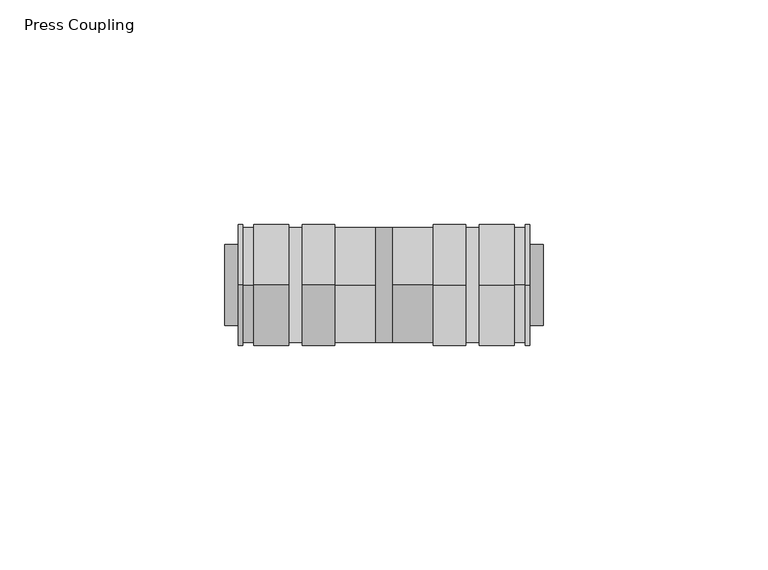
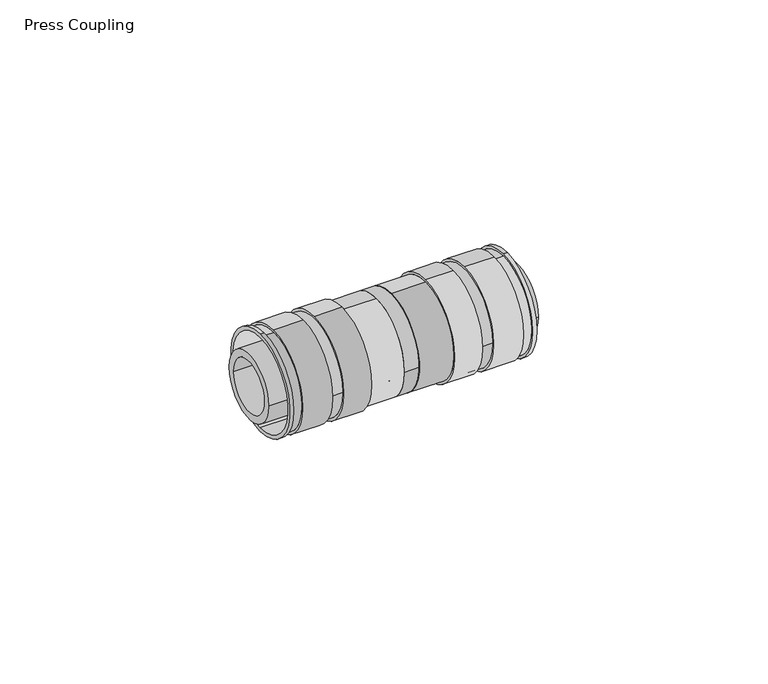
"""IFC4 building model written with IfcOpenShell, lengths in millimetres: pipe fitting geometry, Press Coupling : Superpipe Press Coupling."""

from ifc_helpers import new_model, si_unit, point, frame, frame_2d, origin, place, context, project, spatial, polyline, circle_curve, trimmed, segment, composite_curve, outline, extrude, source, transform, mapped, element, save
from ifc_brep_helpers import plane_surface, cylinder_surface, revolved_surface, advanced_brep


def press_coupling_33d5531b(model_context):
    return source(origin(), model_context, "Body", "SolidModel", [
        advanced_brep(
        [(68.0, 0.0, -13.5), (68.0, 0.0, 13.5), (68.0, 0.0, -12.5), (68.0, 0.0, 12.5), (37.5, 0.0, -12.8), (37.5, 0.0, 12.8), (37.5, 0.0, -12.5), (37.5, 0.0, 12.5), (67.0, 0.0, -13.5), (67.0, 0.0, 13.5), (64.5, 0.0, 13.5), (64.5, 0.0, -13.5), (56.75, 0.0, -13.5), (56.75, 13.5, 0.0), (56.75, 0.0, 13.5), (53.75, 13.5, 0.0), (53.75, 0.0, -13.5), (46.5, 0.0, -13.5), (46.5, 0.0, 13.5), (53.75, 0.0, 13.5), (56.75, -13.5, 0.0), (53.75, -13.5, 0.0), (64.5, 0.0, 12.8), (64.5, 0.0, -12.8), (67.0, 0.0, 12.8), (67.0, 0.0, -12.8), (56.75, 12.8, 0.0), (56.75, -12.8, 0.0), (53.75, 12.8, 0.0), (53.75, -12.8, 0.0), (46.5, 0.0, -12.8), (46.5, 0.0, 12.8)],
        [
            (0, 1, circle_curve(frame((68.0, 0.0, 0.0), z_axis=(1.0, 0.0, 0.0), x_axis=(0.0, 0.0, 1.0)), 13.5)),
            (1, 0, circle_curve(frame((68.0, 0.0, 0.0), z_axis=(1.0, 0.0, 0.0), x_axis=(0.0, 0.0, 1.0)), 13.5)),
            (2, 3, circle_curve(frame((68.0, 0.0, 0.0), z_axis=(-1.0, 0.0, 0.0), x_axis=(0.0, 0.0, 1.0)), 12.5)),
            (3, 2, circle_curve(frame((68.0, 0.0, 0.0), z_axis=(-1.0, 0.0, 0.0), x_axis=(0.0, 0.0, 1.0)), 12.5)),
            (4, 5, circle_curve(frame((37.5, 0.0, 0.0), z_axis=(-1.0, 0.0, 0.0), x_axis=(0.0, 0.0, 1.0)), 12.8)),
            (5, 4, circle_curve(frame((37.5, 0.0, 0.0), z_axis=(-1.0, 0.0, 0.0), x_axis=(0.0, 0.0, 1.0)), 12.8)),
            (6, 7, circle_curve(frame((37.5, 0.0, 0.0), z_axis=(1.0, 0.0, 0.0), x_axis=(0.0, 0.0, 1.0)), 12.5)),
            (7, 6, circle_curve(frame((37.5, 0.0, 0.0), z_axis=(1.0, 0.0, 0.0), x_axis=(0.0, 0.0, 1.0)), 12.5)),
            (0, 8),
            (8, 9, circle_curve(frame((67.0, 0.0, 0.0), z_axis=(1.0, 0.0, 0.0), x_axis=(0.0, 0.0, 1.0)), 13.5)),
            (9, 1),
            (10, 11, circle_curve(frame((64.5, 0.0, 0.0), z_axis=(-1.0, 0.0, 0.0), x_axis=(0.0, 0.0, 1.0)), 13.5)),
            (11, 12),
            (12, 13, circle_curve(frame((56.75, 0.0, 0.0), z_axis=(1.0, 0.0, 0.0), x_axis=(0.0, 0.0, 1.0)), 13.5)),
            (13, 14, circle_curve(frame((56.75, 0.0, 0.0), z_axis=(1.0, 0.0, 0.0), x_axis=(0.0, 0.0, 1.0)), 13.5)),
            (14, 10),
            (15, 16, circle_curve(frame((53.75, 0.0, 0.0), z_axis=(-1.0, 0.0, 0.0), x_axis=(0.0, 0.0, 1.0)), 13.5)),
            (16, 17),
            (17, 18, circle_curve(frame((46.5, 0.0, 0.0), z_axis=(1.0, 0.0, 0.0), x_axis=(0.0, 0.0, 1.0)), 13.5)),
            (18, 19),
            (19, 15, circle_curve(frame((53.75, 0.0, 0.0), z_axis=(-1.0, 0.0, 0.0), x_axis=(0.0, 0.0, 1.0)), 13.5)),
            (9, 8, circle_curve(frame((67.0, 0.0, 0.0), z_axis=(1.0, 0.0, 0.0), x_axis=(0.0, 0.0, 1.0)), 13.5)),
            (11, 10, circle_curve(frame((64.5, 0.0, 0.0), z_axis=(-1.0, 0.0, 0.0), x_axis=(0.0, 0.0, 1.0)), 13.5)),
            (14, 20, circle_curve(frame((56.75, 0.0, 0.0), z_axis=(1.0, 0.0, 0.0), x_axis=(0.0, 0.0, 1.0)), 13.5)),
            (20, 12, circle_curve(frame((56.75, 0.0, 0.0), z_axis=(1.0, 0.0, 0.0), x_axis=(0.0, 0.0, 1.0)), 13.5)),
            (16, 21, circle_curve(frame((53.75, 0.0, 0.0), z_axis=(-1.0, 0.0, 0.0), x_axis=(0.0, 0.0, 1.0)), 13.5)),
            (21, 19, circle_curve(frame((53.75, 0.0, 0.0), z_axis=(-1.0, 0.0, 0.0), x_axis=(0.0, 0.0, 1.0)), 13.5)),
            (18, 17, circle_curve(frame((46.5, 0.0, 0.0), z_axis=(1.0, 0.0, 0.0), x_axis=(0.0, 0.0, 1.0)), 13.5)),
            (2, 6),
            (7, 3),
            (22, 23, circle_curve(frame((64.5, 0.0, 0.0), z_axis=(-1.0, 0.0, 0.0), x_axis=(0.0, 0.0, -1.0)), 12.8)),
            (23, 22, circle_curve(frame((64.5, 0.0, 0.0), z_axis=(-1.0, 0.0, 0.0), x_axis=(0.0, 0.0, -1.0)), 12.8)),
            (24, 25, circle_curve(frame((67.0, 0.0, 0.0), z_axis=(1.0, 0.0, 0.0), x_axis=(0.0, 0.0, -1.0)), 12.8)),
            (25, 24, circle_curve(frame((67.0, 0.0, 0.0), z_axis=(1.0, 0.0, 0.0), x_axis=(0.0, 0.0, -1.0)), 12.8)),
            (23, 25),
            (24, 22),
            (26, 27, circle_curve(frame((56.75, 0.0, 0.0), z_axis=(1.0, 0.0, 0.0), x_axis=(0.0, -1.0, 0.0)), 12.8)),
            (27, 26, circle_curve(frame((56.75, 0.0, 0.0), z_axis=(1.0, 0.0, 0.0), x_axis=(0.0, -1.0, 0.0)), 12.8)),
            (28, 29, circle_curve(frame((53.75, 0.0, 0.0), z_axis=(-1.0, 0.0, 0.0), x_axis=(0.0, -1.0, 0.0)), 12.8)),
            (29, 28, circle_curve(frame((53.75, 0.0, 0.0), z_axis=(-1.0, 0.0, 0.0), x_axis=(0.0, -1.0, 0.0)), 12.8)),
            (26, 28),
            (29, 27),
            (30, 31, circle_curve(frame((46.5, 0.0, 0.0), z_axis=(1.0, 0.0, 0.0), x_axis=(0.0, 0.0, 1.0)), 12.8)),
            (31, 30, circle_curve(frame((46.5, 0.0, 0.0), z_axis=(1.0, 0.0, 0.0), x_axis=(0.0, 0.0, 1.0)), 12.8)),
            (31, 5),
            (4, 30),
        ],
        [
            plane_surface(frame((68.0, 0.0, 13.5), z_axis=(1.0, 0.0, 0.0), x_axis=(0.0, -1.0, 0.0))),
            plane_surface(frame((37.5, 0.0, 13.5), z_axis=(-1.0, 0.0, 0.0), x_axis=(0.0, 1.0, 0.0))),
            cylinder_surface(frame((37.5, 0.0, 0.0), z_axis=(1.0, 0.0, 0.0), x_axis=(0.0, 0.0, 1.0)), 13.5),
            revolved_surface(polyline([(37.5, 0.0, 12.5), (68.0, 0.0, 12.5)]), (37.5, 0.0, 0.0), (-1.0, 0.0, 0.0)),
            plane_surface(frame((64.5, 0.0, -13.5), z_axis=(1.0, 0.0, 0.0), x_axis=(0.0, -1.0, 0.0))),
            plane_surface(frame((67.0, 0.0, -13.5), z_axis=(-1.0, 0.0, 0.0), x_axis=(0.0, 1.0, 0.0))),
            cylinder_surface(frame((68.0, 0.0, 0.0), z_axis=(1.0, 0.0, 0.0), x_axis=(0.0, 0.0, -1.0)), 12.8),
            plane_surface(frame((56.75, -13.5, 0.0), z_axis=(-1.0, 0.0, 0.0), x_axis=(0.0, 0.0, -1.0))),
            plane_surface(frame((53.75, -13.5, 0.0), z_axis=(1.0, 0.0, 0.0), x_axis=(0.0, 0.0, 1.0))),
            cylinder_surface(frame((53.75, 0.0, 0.0), z_axis=(1.0, 0.0, 0.0), x_axis=(0.0, -1.0, 0.0)), 12.8),
            plane_surface(frame((46.5, 0.0, 13.5), z_axis=(-1.0, 0.0, 0.0), x_axis=(0.0, -1.0, 0.0))),
            cylinder_surface(frame((37.5, 0.0, 0.0), z_axis=(-1.0, 0.0, 0.0), x_axis=(0.0, 0.0, 1.0)), 12.8),
        ],
        [
            (0, [[1, 2], [3, 4]]),
            (1, [[5, 6], [7, 8]]),
            (2, [[-1, 9, 10, 11]]),
            (2, [[12, 13, 14, 15, 16]]),
            (2, [[17, 18, 19, 20, 21]]),
            (2, [[-2, -11, 22, -9]]),
            (2, [[23, -16, 24, 25, -13]]),
            (2, [[26, 27, -20, 28, -18]]),
            (3, [[-3, 29, -8, 30]]),
            (3, [[-4, -30, -7, -29]]),
            (4, [[-12, -23], [31, 32]]),
            (5, [[-10, -22], [33, 34]]),
            (6, [[-32, 35, -33, 36]]),
            (6, [[-31, -36, -34, -35]]),
            (7, [[-14, -25, -24, -15], [37, 38]]),
            (8, [[-17, -21, -27, -26], [39, 40]]),
            (9, [[-37, 41, -40, 42]]),
            (9, [[-38, -42, -39, -41]]),
            (10, [[-19, -28], [43, 44]]),
            (11, [[-44, 45, -5, 46]]),
            (11, [[-43, -46, -6, -45]]),
        ],
    ),
        advanced_brep(
        [(3.0, 0.0, -13.5), (3.0, 0.0, 13.5), (3.0, 0.0, -12.5), (3.0, 0.0, 12.5), (33.5, 0.0, -12.8), (33.5, 0.0, 12.8), (33.5, 0.0, -12.5), (33.5, 0.0, 12.5), (4.0, 0.0, -13.5), (4.0, 0.0, 13.5), (6.5, 0.0, 13.5), (6.5, 0.0, -13.5), (14.25, 0.0, -13.5), (14.25, -13.5, 0.0), (14.25, 0.0, 13.5), (24.5, 0.0, -13.5), (24.5, 0.0, 13.5), (17.25, 0.0, 13.5), (17.25, -13.5, 0.0), (17.25, 0.0, -13.5), (14.25, 13.5, 0.0), (17.25, 13.5, 0.0), (6.5, 0.0, 12.8), (6.5, 0.0, -12.8), (4.0, 0.0, 12.8), (4.0, 0.0, -12.8), (24.5, 0.0, -12.8), (24.5, 0.0, 12.8), (14.25, 12.8, 0.0), (14.25, -12.8, 0.0), (17.25, 12.8, 0.0), (17.25, -12.8, 0.0)],
        [
            (0, 1, circle_curve(frame((3.0, 0.0, 0.0), z_axis=(-1.0, 0.0, 0.0), x_axis=(0.0, 0.0, 1.0)), 13.5)),
            (1, 0, circle_curve(frame((3.0, 0.0, 0.0), z_axis=(-1.0, 0.0, 0.0), x_axis=(0.0, 0.0, 1.0)), 13.5)),
            (2, 3, circle_curve(frame((3.0, 0.0, 0.0), z_axis=(1.0, 0.0, 0.0), x_axis=(0.0, 0.0, 1.0)), 12.5)),
            (3, 2, circle_curve(frame((3.0, 0.0, 0.0), z_axis=(1.0, 0.0, 0.0), x_axis=(0.0, 0.0, 1.0)), 12.5)),
            (4, 5, circle_curve(frame((33.5, 0.0, 0.0), z_axis=(1.0, 0.0, 0.0), x_axis=(0.0, 0.0, 1.0)), 12.8)),
            (5, 4, circle_curve(frame((33.5, 0.0, 0.0), z_axis=(1.0, 0.0, 0.0), x_axis=(0.0, 0.0, 1.0)), 12.8)),
            (6, 7, circle_curve(frame((33.5, 0.0, 0.0), z_axis=(-1.0, 0.0, 0.0), x_axis=(0.0, 0.0, 1.0)), 12.5)),
            (7, 6, circle_curve(frame((33.5, 0.0, 0.0), z_axis=(-1.0, 0.0, 0.0), x_axis=(0.0, 0.0, 1.0)), 12.5)),
            (0, 8),
            (8, 9, circle_curve(frame((4.0, 0.0, 0.0), z_axis=(-1.0, 0.0, 0.0), x_axis=(0.0, 0.0, 1.0)), 13.5)),
            (9, 1),
            (10, 11, circle_curve(frame((6.5, 0.0, 0.0), z_axis=(1.0, 0.0, 0.0), x_axis=(0.0, 0.0, 1.0)), 13.5)),
            (11, 12),
            (12, 13, circle_curve(frame((14.25, 0.0, 0.0), z_axis=(-1.0, 0.0, 0.0), x_axis=(0.0, 0.0, 1.0)), 13.5)),
            (13, 14, circle_curve(frame((14.25, 0.0, 0.0), z_axis=(-1.0, 0.0, 0.0), x_axis=(0.0, 0.0, 1.0)), 13.5)),
            (14, 10),
            (15, 16, circle_curve(frame((24.5, 0.0, 0.0), z_axis=(-1.0, 0.0, 0.0), x_axis=(0.0, 0.0, 1.0)), 13.5)),
            (16, 17),
            (17, 18, circle_curve(frame((17.25, 0.0, 0.0), z_axis=(1.0, 0.0, 0.0), x_axis=(0.0, 0.0, 1.0)), 13.5)),
            (18, 19, circle_curve(frame((17.25, 0.0, 0.0), z_axis=(1.0, 0.0, 0.0), x_axis=(0.0, 0.0, 1.0)), 13.5)),
            (19, 15),
            (9, 8, circle_curve(frame((4.0, 0.0, 0.0), z_axis=(-1.0, 0.0, 0.0), x_axis=(0.0, 0.0, 1.0)), 13.5)),
            (11, 10, circle_curve(frame((6.5, 0.0, 0.0), z_axis=(1.0, 0.0, 0.0), x_axis=(0.0, 0.0, 1.0)), 13.5)),
            (14, 20, circle_curve(frame((14.25, 0.0, 0.0), z_axis=(-1.0, 0.0, 0.0), x_axis=(0.0, 0.0, 1.0)), 13.5)),
            (20, 12, circle_curve(frame((14.25, 0.0, 0.0), z_axis=(-1.0, 0.0, 0.0), x_axis=(0.0, 0.0, 1.0)), 13.5)),
            (16, 15, circle_curve(frame((24.5, 0.0, 0.0), z_axis=(-1.0, 0.0, 0.0), x_axis=(0.0, 0.0, 1.0)), 13.5)),
            (19, 21, circle_curve(frame((17.25, 0.0, 0.0), z_axis=(1.0, 0.0, 0.0), x_axis=(0.0, 0.0, 1.0)), 13.5)),
            (21, 17, circle_curve(frame((17.25, 0.0, 0.0), z_axis=(1.0, 0.0, 0.0), x_axis=(0.0, 0.0, 1.0)), 13.5)),
            (2, 6),
            (7, 3),
            (22, 23, circle_curve(frame((6.5, 0.0, 0.0), z_axis=(1.0, 0.0, 0.0), x_axis=(0.0, 0.0, -1.0)), 12.8)),
            (23, 22, circle_curve(frame((6.5, 0.0, 0.0), z_axis=(1.0, 0.0, 0.0), x_axis=(0.0, 0.0, -1.0)), 12.8)),
            (24, 25, circle_curve(frame((4.0, 0.0, 0.0), z_axis=(-1.0, 0.0, 0.0), x_axis=(0.0, 0.0, -1.0)), 12.8)),
            (25, 24, circle_curve(frame((4.0, 0.0, 0.0), z_axis=(-1.0, 0.0, 0.0), x_axis=(0.0, 0.0, -1.0)), 12.8)),
            (23, 25),
            (24, 22),
            (26, 27, circle_curve(frame((24.5, 0.0, 0.0), z_axis=(-1.0, 0.0, 0.0), x_axis=(0.0, 0.0, 1.0)), 12.8)),
            (27, 26, circle_curve(frame((24.5, 0.0, 0.0), z_axis=(-1.0, 0.0, 0.0), x_axis=(0.0, 0.0, 1.0)), 12.8)),
            (27, 5),
            (4, 26),
            (28, 29, circle_curve(frame((14.25, 0.0, 0.0), z_axis=(-1.0, 0.0, 0.0), x_axis=(0.0, -1.0, 0.0)), 12.8)),
            (29, 28, circle_curve(frame((14.25, 0.0, 0.0), z_axis=(-1.0, 0.0, 0.0), x_axis=(0.0, -1.0, 0.0)), 12.8)),
            (30, 31, circle_curve(frame((17.25, 0.0, 0.0), z_axis=(1.0, 0.0, 0.0), x_axis=(0.0, -1.0, 0.0)), 12.8)),
            (31, 30, circle_curve(frame((17.25, 0.0, 0.0), z_axis=(1.0, 0.0, 0.0), x_axis=(0.0, -1.0, 0.0)), 12.8)),
            (29, 31),
            (30, 28),
        ],
        [
            plane_surface(frame((3.0, 0.0, 13.5), z_axis=(-1.0, 0.0, 0.0), x_axis=(0.0, 1.0, 0.0))),
            plane_surface(frame((33.5, 0.0, 13.5), z_axis=(1.0, 0.0, 0.0), x_axis=(0.0, -1.0, 0.0))),
            cylinder_surface(frame((33.5, 0.0, 0.0), z_axis=(-1.0, 0.0, 0.0), x_axis=(0.0, 0.0, 1.0)), 13.5),
            revolved_surface(polyline([(33.5, 0.0, 12.5), (3.0, 0.0, 12.5)]), (33.5, 0.0, 0.0), (1.0, 0.0, 0.0)),
            plane_surface(frame((6.5, 0.0, -13.5), z_axis=(-1.0, 0.0, 0.0), x_axis=(0.0, 1.0, 0.0))),
            plane_surface(frame((4.0, 0.0, -13.5), z_axis=(1.0, 0.0, 0.0), x_axis=(0.0, -1.0, 0.0))),
            cylinder_surface(frame((3.0, 0.0, 0.0), z_axis=(-1.0, 0.0, 0.0), x_axis=(0.0, 0.0, -1.0)), 12.8),
            plane_surface(frame((24.5, 0.0, 13.5), z_axis=(1.0, 0.0, 0.0), x_axis=(0.0, 1.0, 0.0))),
            cylinder_surface(frame((33.5, 0.0, 0.0), z_axis=(1.0, 0.0, 0.0), x_axis=(0.0, 0.0, 1.0)), 12.8),
            plane_surface(frame((14.25, -13.5, 0.0), z_axis=(1.0, 0.0, 0.0), x_axis=(0.0, 0.0, 1.0))),
            plane_surface(frame((17.25, -13.5, 0.0), z_axis=(-1.0, 0.0, 0.0), x_axis=(0.0, 0.0, -1.0))),
            cylinder_surface(frame((17.25, 0.0, 0.0), z_axis=(1.0, 0.0, 0.0), x_axis=(0.0, -1.0, 0.0)), 12.8),
        ],
        [
            (0, [[1, 2], [3, 4]]),
            (1, [[5, 6], [7, 8]]),
            (2, [[-1, 9, 10, 11]]),
            (2, [[12, 13, 14, 15, 16]]),
            (2, [[17, 18, 19, 20, 21]]),
            (2, [[-2, -11, 22, -9]]),
            (2, [[23, -16, 24, 25, -13]]),
            (2, [[26, -21, 27, 28, -18]]),
            (3, [[-3, 29, -8, 30]]),
            (3, [[-4, -30, -7, -29]]),
            (4, [[-12, -23], [31, 32]]),
            (5, [[-10, -22], [33, 34]]),
            (6, [[-32, 35, -33, 36]]),
            (6, [[-31, -36, -34, -35]]),
            (7, [[-17, -26], [37, 38]]),
            (8, [[-38, 39, -5, 40]]),
            (8, [[-37, -40, -6, -39]]),
            (9, [[-14, -25, -24, -15], [41, 42]]),
            (10, [[-20, -19, -28, -27], [43, 44]]),
            (11, [[-42, 45, -43, 46]]),
            (11, [[-41, -46, -44, -45]]),
        ],
    ),
        extrude(outline(composite_curve([segment(trimmed(circle_curve(frame_2d((-0.000673, 0.0)), 9.0), [point((-9.000673, 0.0))], [point((8.999327, 0.0))], False, "CARTESIAN"), True, "CONTINUOUS"), segment(trimmed(circle_curve(frame_2d((-0.000673, 0.0)), 9.0), [point((8.999327, 0.0))], [point((-9.000673, 0.0))], False, "CARTESIAN"), True, "CONTINUOUS")], self_intersect=False), holes=[composite_curve([segment(trimmed(circle_curve(frame_2d((-0.000673, 0.0)), 7.0), [point((6.999327, 0.0))], [point((-7.000673, 0.0))], True, "CARTESIAN"), True, "CONTINUOUS"), segment(trimmed(circle_curve(frame_2d((-0.000673, 0.0)), 7.0), [point((-7.000673, 0.0))], [point((6.999327, 0.0))], True, "CARTESIAN"), True, "CONTINUOUS")], self_intersect=False)]), frame((37.5, 0.0, 0.0), z_axis=(1.0, 0.0, 0.0), x_axis=(0.0, 1.0, 0.0)), (0.0, 0.0, 1.0), 33.5),
        extrude(outline(composite_curve([segment(trimmed(circle_curve(frame_2d((-0.000673, 0.0)), 9.0), [point((-9.000673, 0.0))], [point((8.999327, 0.0))], False, "CARTESIAN"), True, "CONTINUOUS"), segment(trimmed(circle_curve(frame_2d((-0.000673, 0.0)), 9.0), [point((8.999327, 0.0))], [point((-9.000673, 0.0))], False, "CARTESIAN"), True, "CONTINUOUS")], self_intersect=False), holes=[composite_curve([segment(trimmed(circle_curve(frame_2d((-0.000673, 0.0)), 7.0), [point((6.999327, 0.0))], [point((-7.000673, 0.0))], True, "CARTESIAN"), True, "CONTINUOUS"), segment(trimmed(circle_curve(frame_2d((-0.000673, 0.0)), 7.0), [point((-7.000673, 0.0))], [point((6.999327, 0.0))], True, "CARTESIAN"), True, "CONTINUOUS")], self_intersect=False)]), frame((0.0, 0.0, 0.0), z_axis=(1.0, 0.0, 0.0), x_axis=(0.0, 1.0, 0.0)), (0.0, 0.0, 1.0), 33.5),
        extrude(outline(composite_curve([segment(trimmed(circle_curve(frame_2d((-0.000673, 0.0)), 12.8), [point((-12.800673, 0.0))], [point((12.799327, 0.0))], False, "CARTESIAN"), True, "CONTINUOUS"), segment(trimmed(circle_curve(frame_2d((-0.000673, 0.0)), 12.8), [point((12.799327, 0.0))], [point((-12.800673, 0.0))], False, "CARTESIAN"), True, "CONTINUOUS")], self_intersect=False), holes=[composite_curve([segment(trimmed(circle_curve(frame_2d((-0.000673, 0.0)), 7.0), [point((6.999327, 0.0))], [point((-7.000673, 0.0))], True, "CARTESIAN"), True, "CONTINUOUS"), segment(trimmed(circle_curve(frame_2d((-0.000673, 0.0)), 7.0), [point((-7.000673, 0.0))], [point((6.999327, 0.0))], True, "CARTESIAN"), True, "CONTINUOUS")], self_intersect=False)]), frame((33.5, 0.0, 0.0), z_axis=(1.0, 0.0, 0.0), x_axis=(0.0, 1.0, 0.0)), (0.0, 0.0, 1.0), 4.0),
    ])


if __name__ == "__main__":
    model = new_model("IFC4")
    model_context = context("Model", 3, world=origin())
    ifc_project = project(units=[si_unit("LENGTHUNIT", "METRE", prefix="MILLI")], contexts=[model_context])
    site = spatial("IfcSite", under=ifc_project)
    building = spatial("IfcBuilding", under=site)
    placement = place(None, origin())
    press_coupling_shape = press_coupling_33d5531b(model_context)
    element("IfcPipeFitting", 1, ObjectType="Press Coupling : Superpipe Press Coupling", at=placement, inside=building, context=model_context, shape_type="MappedRepresentation", body=[
        mapped(press_coupling_shape, transform((0.0, 0.0, 0.0), x_axis=(1.0, 0.0, 0.0), y_axis=(0.0, 1.0, 0.0), z_axis=(0.0, 0.0, 1.0))),
    ])
    save(model, "model.ifc")
